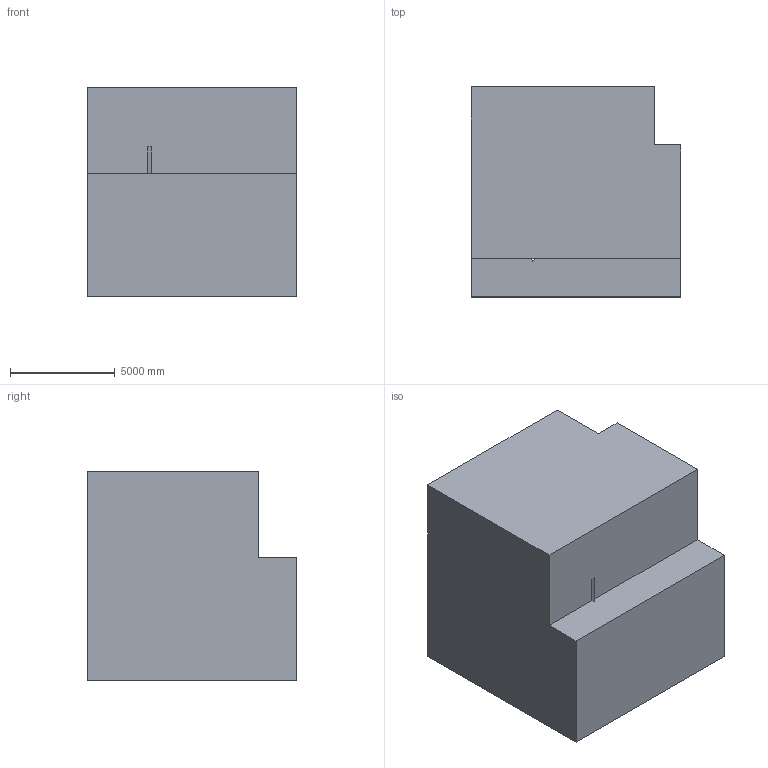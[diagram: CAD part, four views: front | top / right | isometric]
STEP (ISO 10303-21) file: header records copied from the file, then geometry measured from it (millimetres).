
FILE_DESCRIPTION (( 'STEP AP203' ), '1' );
FILE_NAME ('1244.STEP', '2022-08-18T13:21:51', ( 'user' ), ( '' ), 'SwSTEP 2.0', 'SolidWorks 2021', '' );
FILE_SCHEMA (( 'CONFIG_CONTROL_DESIGN' ));
Length unit declared in the file: centimetre
Products named in the file (1): 1244
Bounding box: 10000 x 10000 x 10000 mm (x, y, z)
Volume: 869206458708.9 mm3; surface area: 633750637.2 mm2
Topology: 1 solids, 1 shells, 14 faces, 39 edges, 26 vertices
Faces by surface type: plane 14
Entity records: 524 total; most frequent: CARTESIAN_POINT 80, ORIENTED_EDGE 78, DIRECTION 69, EDGE_CURVE 39, LINE 39, VECTOR 39, VERTEX_POINT 26, EDGE_LOOP 15
